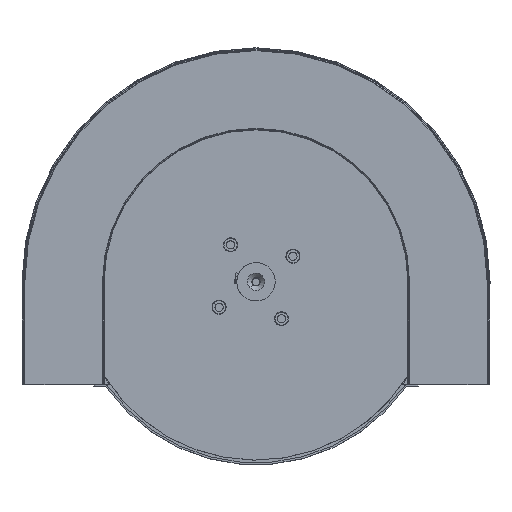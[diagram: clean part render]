
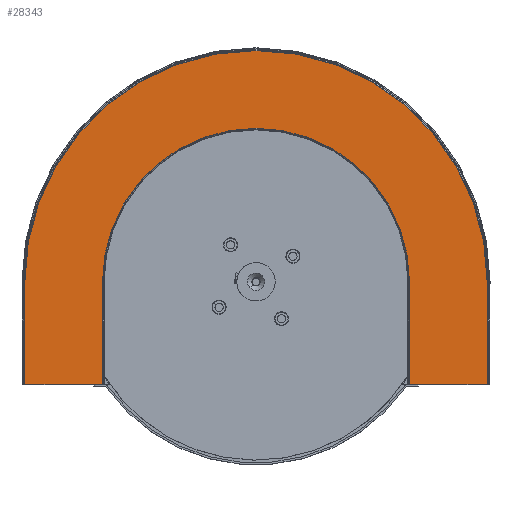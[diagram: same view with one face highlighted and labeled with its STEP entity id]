
A CAD part, top view. The second image highlights one B-rep face of the part: STEP entity #28343.
In plain terms, the highlighted planar face has unit normal (0, 0, 1).
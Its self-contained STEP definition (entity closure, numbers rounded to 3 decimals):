
#150 = DIRECTION ( 'NONE',  ( 0., -1., 0. ) ) ;
#538 = AXIS2_PLACEMENT_3D ( 'NONE', #5221, #12032, #25955 ) ;
#619 = LINE ( 'NONE', #20985, #2844 ) ;
#1621 = EDGE_CURVE ( 'NONE', #23432, #9661, #19949, .T. ) ;
#2017 = EDGE_CURVE ( 'NONE', #3646, #15541, #3384, .T. ) ;
#2026 = VERTEX_POINT ( 'NONE', #13999 ) ;
#2100 = FACE_OUTER_BOUND ( 'NONE', #12376, .T. ) ;
#2203 = PLANE ( 'NONE',  #21867 ) ;
#2674 = VECTOR ( 'NONE', #16307, 1000. ) ;
#2800 = CARTESIAN_POINT ( 'NONE',  ( 1926.593, 427.5, 67.7 ) ) ;
#2820 = EDGE_CURVE ( 'NONE', #19462, #15541, #8966, .T. ) ;
#2844 = VECTOR ( 'NONE', #23007, 1000. ) ;
#3026 = CARTESIAN_POINT ( 'NONE',  ( 1866.007, 427.5, 67.7 ) ) ;
#3384 = LINE ( 'NONE', #25562, #2674 ) ;
#3445 = CARTESIAN_POINT ( 'NONE',  ( 2226.592, 427.5, 67.7 ) ) ;
#3646 = VERTEX_POINT ( 'NONE', #3445 ) ;
#3750 = CARTESIAN_POINT ( 'NONE',  ( 1866.007, 347.5, 67.7 ) ) ;
#5221 = CARTESIAN_POINT ( 'NONE',  ( 2046.299, 427.5, 67.7 ) ) ;
#5368 = ORIENTED_EDGE ( 'NONE', *, *, #8821, .T. ) ;
#5796 = CARTESIAN_POINT ( 'NONE',  ( 1866.007, 427.5, 67.7 ) ) ;
#6159 = VECTOR ( 'NONE', #16923, 1000. ) ;
#7453 = DIRECTION ( 'NONE',  ( -1., 0., 0. ) ) ;
#8477 = ORIENTED_EDGE ( 'NONE', *, *, #2017, .F. ) ;
#8821 = EDGE_CURVE ( 'NONE', #2026, #19462, #10030, .T. ) ;
#8836 = AXIS2_PLACEMENT_3D ( 'NONE', #23966, #18943, #7453 ) ;
#8950 = VECTOR ( 'NONE', #10297, 1000. ) ;
#8966 = LINE ( 'NONE', #20683, #29465 ) ;
#9068 = CARTESIAN_POINT ( 'NONE',  ( 1926.593, 427.5, 67.7 ) ) ;
#9661 = VERTEX_POINT ( 'NONE', #3750 ) ;
#9670 = CARTESIAN_POINT ( 'NONE',  ( 2166.006, 347.5, 67.7 ) ) ;
#10030 = LINE ( 'NONE', #23203, #15165 ) ;
#10035 = CIRCLE ( 'NONE', #8836, 119.707 ) ;
#10297 = DIRECTION ( 'NONE',  ( 0., -1., 0. ) ) ;
#10725 = CARTESIAN_POINT ( 'NONE',  ( 2226.592, 347.5, 67.7 ) ) ;
#12032 = DIRECTION ( 'NONE',  ( 0., 0., -1. ) ) ;
#12376 = EDGE_LOOP ( 'NONE', ( #13943, #18857, #15459, #5368, #27703, #8477, #22372, #22467 ) ) ;
#13618 = DIRECTION ( 'NONE',  ( 1., 0., 0. ) ) ;
#13943 = ORIENTED_EDGE ( 'NONE', *, *, #28333, .F. ) ;
#13999 = CARTESIAN_POINT ( 'NONE',  ( 2166.006, 427.5, 67.7 ) ) ;
#15165 = VECTOR ( 'NONE', #150, 1000. ) ;
#15286 = CIRCLE ( 'NONE', #538, 180.292 ) ;
#15427 = EDGE_CURVE ( 'NONE', #23432, #3646, #15286, .T. ) ;
#15459 = ORIENTED_EDGE ( 'NONE', *, *, #17332, .T. ) ;
#15541 = VERTEX_POINT ( 'NONE', #10725 ) ;
#15940 = EDGE_CURVE ( 'NONE', #17495, #30262, #29619, .T. ) ;
#16036 = DIRECTION ( 'NONE',  ( 0., 0., 1. ) ) ;
#16307 = DIRECTION ( 'NONE',  ( 0., -1., 0. ) ) ;
#16923 = DIRECTION ( 'NONE',  ( 0., -1., 0. ) ) ;
#17332 = EDGE_CURVE ( 'NONE', #17495, #2026, #10035, .T. ) ;
#17495 = VERTEX_POINT ( 'NONE', #22289 ) ;
#18857 = ORIENTED_EDGE ( 'NONE', *, *, #15940, .F. ) ;
#18943 = DIRECTION ( 'NONE',  ( 0., 0., -1. ) ) ;
#19462 = VERTEX_POINT ( 'NONE', #9670 ) ;
#19949 = LINE ( 'NONE', #3026, #8950 ) ;
#20683 = CARTESIAN_POINT ( 'NONE',  ( 2166.006, 347.5, 67.7 ) ) ;
#20985 = CARTESIAN_POINT ( 'NONE',  ( 1926.593, 347.5, 67.7 ) ) ;
#21867 = AXIS2_PLACEMENT_3D ( 'NONE', #9068, #16036, #13618 ) ;
#22289 = CARTESIAN_POINT ( 'NONE',  ( 1926.593, 427.5, 67.7 ) ) ;
#22372 = ORIENTED_EDGE ( 'NONE', *, *, #15427, .F. ) ;
#22467 = ORIENTED_EDGE ( 'NONE', *, *, #1621, .T. ) ;
#22829 = DIRECTION ( 'NONE',  ( 1., 0., 0. ) ) ;
#23007 = DIRECTION ( 'NONE',  ( -1., 0., 0. ) ) ;
#23199 = CARTESIAN_POINT ( 'NONE',  ( 1926.593, 347.5, 67.7 ) ) ;
#23203 = CARTESIAN_POINT ( 'NONE',  ( 2166.006, 427.5, 67.7 ) ) ;
#23432 = VERTEX_POINT ( 'NONE', #5796 ) ;
#23966 = CARTESIAN_POINT ( 'NONE',  ( 2046.299, 427.5, 67.7 ) ) ;
#25562 = CARTESIAN_POINT ( 'NONE',  ( 2226.592, 427.5, 67.7 ) ) ;
#25955 = DIRECTION ( 'NONE',  ( -1., 0., 0. ) ) ;
#27703 = ORIENTED_EDGE ( 'NONE', *, *, #2820, .T. ) ;
#28333 = EDGE_CURVE ( 'NONE', #30262, #9661, #619, .T. ) ;
#28343 = ADVANCED_FACE ( 'NONE', ( #2100 ), #2203, .T. ) ;
#29465 = VECTOR ( 'NONE', #22829, 1000. ) ;
#29619 = LINE ( 'NONE', #2800, #6159 ) ;
#30262 = VERTEX_POINT ( 'NONE', #23199 ) ;
